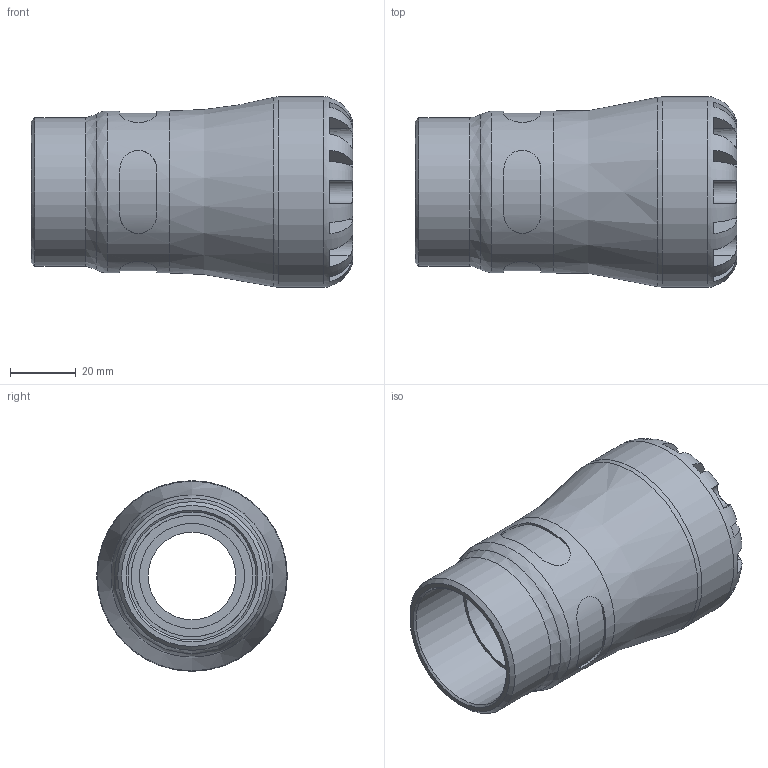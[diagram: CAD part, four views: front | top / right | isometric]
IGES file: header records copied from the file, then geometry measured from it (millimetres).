
Global section: file name: 107300032013_197300032013.ipt; native system: Autodesk Inventor 2015; preprocessor: unknown; author: KIM; date: 20170122.113608; units: millimetre
Bounding box: 98 x 58 x 58 mm (x, y, z)
Volume: 112020.7 mm3; surface area: 30181.6 mm2
Topology: 1 solids, 1 shells, 106 faces, 273 edges, 176 vertices
Faces by surface type: plane 62, revolution 28, cylinder 15, cone 1
Full cylindrical faces by diameter (mm): 45.24 x1, 49.3 x1, 58 x1
